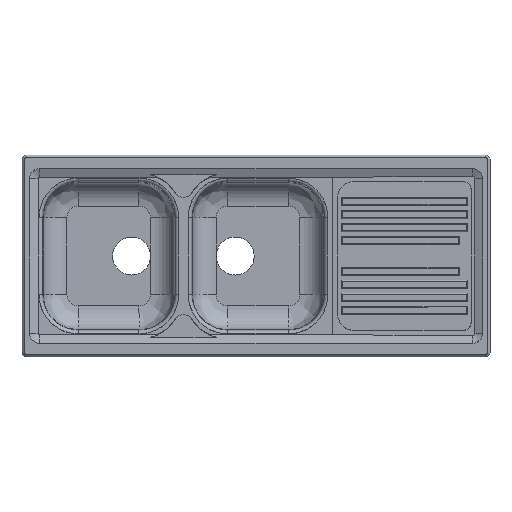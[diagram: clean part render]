
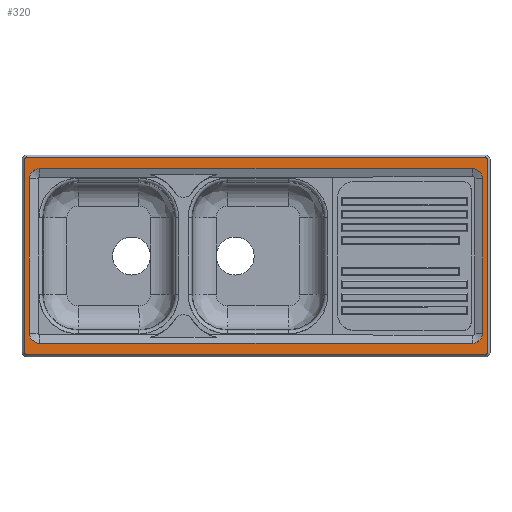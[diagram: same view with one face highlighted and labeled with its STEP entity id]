
A CAD part, top view. The second image highlights one B-rep face of the part: STEP entity #320.
In plain terms, the highlighted planar face has unit normal (0, 0, 1).
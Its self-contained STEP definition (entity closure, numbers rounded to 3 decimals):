
#320=ADVANCED_FACE('',(#795,#796),#797,.T.);
#795=FACE_OUTER_BOUND('',#1470,.T.);
#796=FACE_BOUND('',#1471,.T.);
#797=PLANE('',#1472);
#1470=EDGE_LOOP('',(#3064,#3065,#3066,#3067,#3068,#3069,#3070,#3071));
#1471=EDGE_LOOP('',(#3072,#3073,#3074,#3075,#3076,#3077,#3078,#3079));
#1472=AXIS2_PLACEMENT_3D('',#3080,#3081,#3082);
#3064=ORIENTED_EDGE('',*,*,#4720,.T.);
#3065=ORIENTED_EDGE('',*,*,#4721,.T.);
#3066=ORIENTED_EDGE('',*,*,#4722,.T.);
#3067=ORIENTED_EDGE('',*,*,#4723,.T.);
#3068=ORIENTED_EDGE('',*,*,#4724,.T.);
#3069=ORIENTED_EDGE('',*,*,#4725,.T.);
#3070=ORIENTED_EDGE('',*,*,#4726,.T.);
#3071=ORIENTED_EDGE('',*,*,#4727,.T.);
#3072=ORIENTED_EDGE('',*,*,#4718,.T.);
#3073=ORIENTED_EDGE('',*,*,#4677,.T.);
#3074=ORIENTED_EDGE('',*,*,#4697,.T.);
#3075=ORIENTED_EDGE('',*,*,#4694,.T.);
#3076=ORIENTED_EDGE('',*,*,#4691,.T.);
#3077=ORIENTED_EDGE('',*,*,#4687,.T.);
#3078=ORIENTED_EDGE('',*,*,#4728,.T.);
#3079=ORIENTED_EDGE('',*,*,#4729,.T.);
#3080=CARTESIAN_POINT('',(0.0,0.0,12.0));
#3081=DIRECTION('',(0.0,0.0,1.0));
#3082=DIRECTION('',(1.0,-0.0,0.0));
#4677=EDGE_CURVE('',#5597,#5595,#5598,.T.);
#4687=EDGE_CURVE('',#5617,#5615,#5618,.T.);
#4691=EDGE_CURVE('',#5624,#5617,#5625,.F.);
#4694=EDGE_CURVE('',#5629,#5624,#5630,.T.);
#4697=EDGE_CURVE('',#5595,#5629,#5633,.F.);
#4718=EDGE_CURVE('',#5668,#5597,#5669,.F.);
#4720=EDGE_CURVE('',#5671,#5672,#5673,.F.);
#4721=EDGE_CURVE('',#5672,#5674,#5675,.T.);
#4722=EDGE_CURVE('',#5674,#5676,#5677,.F.);
#4723=EDGE_CURVE('',#5676,#5678,#5679,.T.);
#4724=EDGE_CURVE('',#5678,#5680,#5681,.F.);
#4725=EDGE_CURVE('',#5680,#5682,#5683,.T.);
#4726=EDGE_CURVE('',#5682,#5684,#5685,.F.);
#4727=EDGE_CURVE('',#5684,#5671,#5686,.T.);
#4728=EDGE_CURVE('',#5615,#5687,#5688,.F.);
#4729=EDGE_CURVE('',#5687,#5668,#5689,.T.);
#5595=VERTEX_POINT('',#6955);
#5597=VERTEX_POINT('',#6958);
#5598=LINE('',#6959,#6960);
#5615=VERTEX_POINT('',#6989);
#5617=VERTEX_POINT('',#6992);
#5618=LINE('',#6993,#6994);
#5624=VERTEX_POINT('',#7002);
#5625=CIRCLE('',#7003,25.0);
#5629=VERTEX_POINT('',#7009);
#5630=LINE('',#7010,#7011);
#5633=CIRCLE('',#7015,25.0);
#5668=VERTEX_POINT('',#7094);
#5669=CIRCLE('',#7095,25.0);
#5671=VERTEX_POINT('',#7098);
#5672=VERTEX_POINT('',#7099);
#5673=LINE('',#7100,#7101);
#5674=VERTEX_POINT('',#7102);
#5675=CIRCLE('',#7103,5.0);
#5676=VERTEX_POINT('',#7104);
#5677=LINE('',#7105,#7106);
#5678=VERTEX_POINT('',#7107);
#5679=CIRCLE('',#7108,5.0);
#5680=VERTEX_POINT('',#7109);
#5681=LINE('',#7110,#7111);
#5682=VERTEX_POINT('',#7112);
#5683=CIRCLE('',#7113,5.0);
#5684=VERTEX_POINT('',#7114);
#5685=LINE('',#7115,#7116);
#5686=CIRCLE('',#7117,5.0);
#5687=VERTEX_POINT('',#7118);
#5688=CIRCLE('',#7119,25.0);
#5689=LINE('',#7120,#7121);
#6955=CARTESIAN_POINT('',(-536.5,-216.5,12.0));
#6958=CARTESIAN_POINT('',(536.5,-216.5,12.0));
#6959=CARTESIAN_POINT('',(0.,-216.5,12.0));
#6960=VECTOR('',#8856,1.0);
#6989=CARTESIAN_POINT('',(536.5,216.5,12.0));
#6992=CARTESIAN_POINT('',(-536.5,216.5,12.0));
#6993=CARTESIAN_POINT('',(0.,216.5,12.0));
#6994=VECTOR('',#8862,1.0);
#7002=CARTESIAN_POINT('',(-561.5,191.5,12.0));
#7003=AXIS2_PLACEMENT_3D('',#8868,#8869,#8870);
#7009=CARTESIAN_POINT('',(-561.5,-191.5,12.0));
#7010=CARTESIAN_POINT('',(-561.5,0.0,12.0));
#7011=VECTOR('',#8873,1.0);
#7015=AXIS2_PLACEMENT_3D('',#8878,#8879,#8880);
#7094=CARTESIAN_POINT('',(561.5,-191.5,12.0));
#7095=AXIS2_PLACEMENT_3D('',#8907,#8908,#8909);
#7098=CARTESIAN_POINT('',(569.0,244.0,12.0));
#7099=CARTESIAN_POINT('',(-569.0,244.0,12.0));
#7100=CARTESIAN_POINT('',(0.0,244.0,12.0));
#7101=VECTOR('',#8911,1.0);
#7102=CARTESIAN_POINT('',(-574.0,239.0,12.0));
#7103=AXIS2_PLACEMENT_3D('',#8912,#8913,#8914);
#7104=CARTESIAN_POINT('',(-574.0,-239.0,12.0));
#7105=CARTESIAN_POINT('',(-574.0,0.,12.0));
#7106=VECTOR('',#8915,1.0);
#7107=CARTESIAN_POINT('',(-569.0,-244.0,12.0));
#7108=AXIS2_PLACEMENT_3D('',#8916,#8917,#8918);
#7109=CARTESIAN_POINT('',(569.0,-244.0,12.0));
#7110=CARTESIAN_POINT('',(0.,-244.0,12.0));
#7111=VECTOR('',#8919,1.0);
#7112=CARTESIAN_POINT('',(574.0,-239.0,12.0));
#7113=AXIS2_PLACEMENT_3D('',#8920,#8921,#8922);
#7114=CARTESIAN_POINT('',(574.0,239.0,12.0));
#7115=CARTESIAN_POINT('',(574.0,0.,12.0));
#7116=VECTOR('',#8923,1.0);
#7117=AXIS2_PLACEMENT_3D('',#8924,#8925,#8926);
#7118=CARTESIAN_POINT('',(561.5,191.5,12.0));
#7119=AXIS2_PLACEMENT_3D('',#8927,#8928,#8929);
#7120=CARTESIAN_POINT('',(561.5,0.,12.0));
#7121=VECTOR('',#8930,1.0);
#8856=DIRECTION('',(-1.0,0.0,0.0));
#8862=DIRECTION('',(1.0,0.0,0.0));
#8868=CARTESIAN_POINT('',(-536.5,191.5,12.0));
#8869=DIRECTION('',(0.0,0.0,1.0));
#8870=DIRECTION('',(1.0,0.0,0.0));
#8873=DIRECTION('',(0.0,1.0,0.0));
#8878=CARTESIAN_POINT('',(-536.5,-191.5,12.0));
#8879=DIRECTION('',(0.0,0.0,1.0));
#8880=DIRECTION('',(1.0,0.0,0.0));
#8907=CARTESIAN_POINT('',(536.5,-191.5,12.0));
#8908=DIRECTION('',(0.0,0.0,1.0));
#8909=DIRECTION('',(1.0,0.0,0.0));
#8911=DIRECTION('',(1.0,0.0,0.0));
#8912=CARTESIAN_POINT('',(-569.0,239.0,12.0));
#8913=DIRECTION('',(0.0,0.0,1.0));
#8914=DIRECTION('',(1.0,0.0,0.0));
#8915=DIRECTION('',(0.0,1.0,0.0));
#8916=CARTESIAN_POINT('',(-569.0,-239.0,12.0));
#8917=DIRECTION('',(0.0,0.0,1.0));
#8918=DIRECTION('',(1.0,0.0,0.0));
#8919=DIRECTION('',(-1.0,0.0,0.0));
#8920=CARTESIAN_POINT('',(569.0,-239.0,12.0));
#8921=DIRECTION('',(0.0,0.0,1.0));
#8922=DIRECTION('',(1.0,0.0,0.0));
#8923=DIRECTION('',(0.0,-1.0,0.0));
#8924=CARTESIAN_POINT('',(569.0,239.0,12.0));
#8925=DIRECTION('',(0.0,0.0,1.0));
#8926=DIRECTION('',(1.0,0.0,0.0));
#8927=CARTESIAN_POINT('',(536.5,191.5,12.0));
#8928=DIRECTION('',(0.0,0.0,1.0));
#8929=DIRECTION('',(1.0,0.0,0.0));
#8930=DIRECTION('',(0.0,-1.0,0.0));
